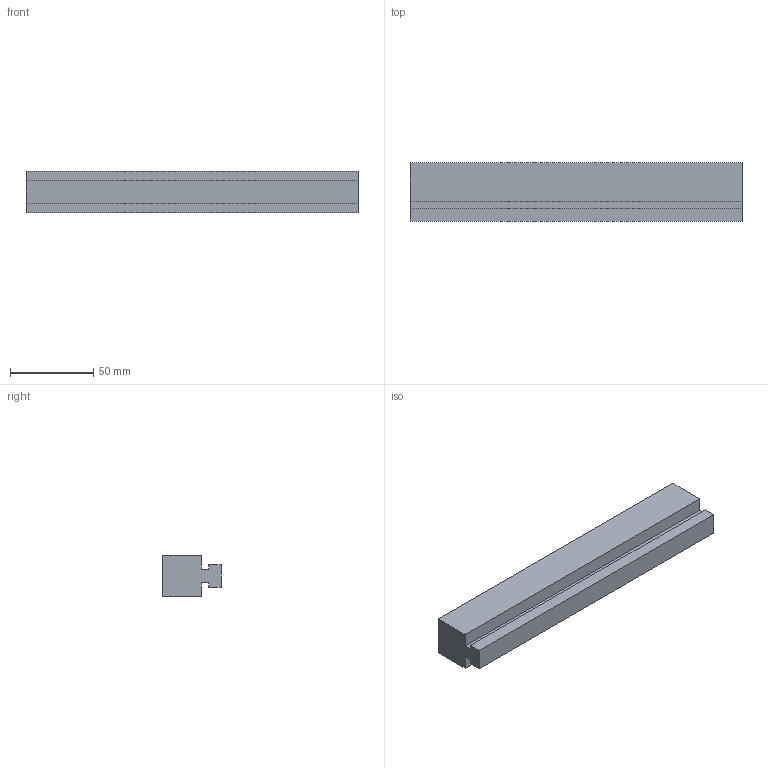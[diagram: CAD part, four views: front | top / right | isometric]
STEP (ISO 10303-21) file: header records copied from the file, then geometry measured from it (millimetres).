
FILE_DESCRIPTION (( 'STEP AP214' ), '1' );
FILE_NAME ('1.6033 Liukukisko 23T.STEP', '2024-03-12T13:14:21', ( '' ), ( '' ), 'SwSTEP 2.0', 'SolidWorks 2024', '' );
FILE_SCHEMA (( 'AUTOMOTIVE_DESIGN' ));
Length unit declared in the file: millimetre
Products named in the file (1): 1.6033 Liukukisko 23T
Bounding box: 200 x 35 x 25 mm (x, y, z)
Volume: 142524 mm3; surface area: 27545.2 mm2
Topology: 1 solids, 1 shells, 14 faces, 36 edges, 24 vertices
Faces by surface type: plane 14
Entity records: 597 total; most frequent: CARTESIAN_POINT 75, ORIENTED_EDGE 72, DIRECTION 66, VECTOR 36, EDGE_CURVE 36, LINE 36, VERTEX_POINT 24, UNCERTAINTY_MEASURE_WITH_UNIT 16
